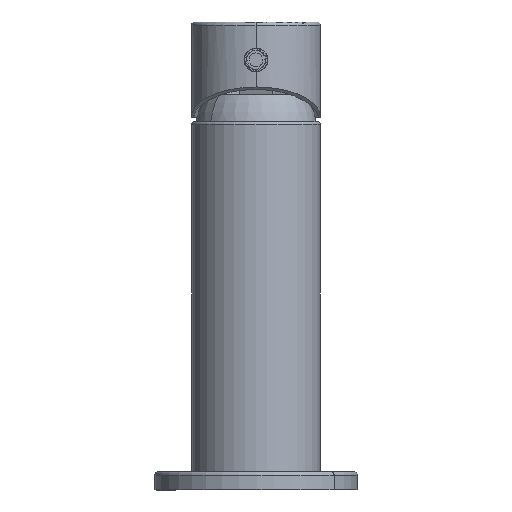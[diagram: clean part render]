
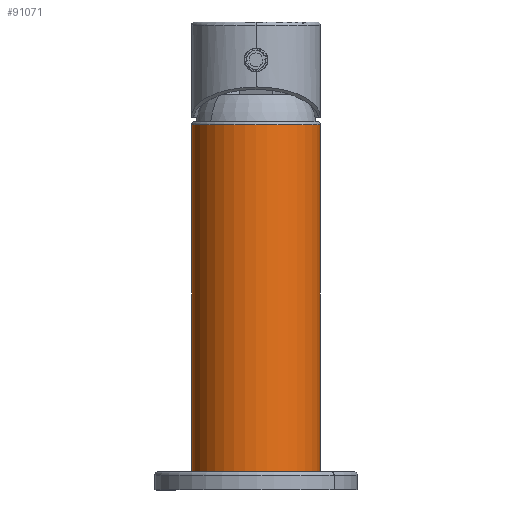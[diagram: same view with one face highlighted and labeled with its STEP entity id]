
A CAD part, left-side view. The second image highlights one B-rep face of the part: STEP entity #91071.
In plain terms, the highlighted cylindrical face has radius 17.5 mm (diameter 35 mm), a partial arc.
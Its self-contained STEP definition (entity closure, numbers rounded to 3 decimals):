
#1308 = LINE ( 'NONE', #87185, #107148 ) ;
#3329 = CARTESIAN_POINT ( 'NONE',  ( -17.5, 0., 114. ) ) ;
#3915 = VERTEX_POINT ( 'NONE', #20731 ) ;
#5699 = ORIENTED_EDGE ( 'NONE', *, *, #101669, .F. ) ;
#9214 = DIRECTION ( 'NONE',  ( 0., 0., -1. ) ) ;
#11037 = DIRECTION ( 'NONE',  ( 0., 0., -1. ) ) ;
#11075 = EDGE_CURVE ( 'NONE', #57371, #51277, #1308, .T. ) ;
#13503 = VERTEX_POINT ( 'NONE', #63009 ) ;
#14594 = ORIENTED_EDGE ( 'NONE', *, *, #80253, .T. ) ;
#15725 = DIRECTION ( 'NONE',  ( 0., 0., -1. ) ) ;
#15899 = AXIS2_PLACEMENT_3D ( 'NONE', #82147, #39203, #29622 ) ;
#16939 = EDGE_CURVE ( 'NONE', #47308, #3915, #30097, .T. ) ;
#18112 = EDGE_LOOP ( 'NONE', ( #5699, #49937, #100967, #103926, #109870, #44350, #46938, #14594 ) ) ;
#18632 = DIRECTION ( 'NONE',  ( 0., 0., -1. ) ) ;
#19739 = EDGE_CURVE ( 'NONE', #46131, #84262, #44283, .T. ) ;
#20444 = DIRECTION ( 'NONE',  ( 1., 0., 0. ) ) ;
#20731 = CARTESIAN_POINT ( 'NONE',  ( -17.5, 0., 113.2 ) ) ;
#26408 = CYLINDRICAL_SURFACE ( 'NONE', #43173, 17.5 ) ;
#27079 = CARTESIAN_POINT ( 'NONE',  ( -17.5, 0., 19. ) ) ;
#28987 = DIRECTION ( 'NONE',  ( 0., 0., -1. ) ) ;
#29622 = DIRECTION ( 'NONE',  ( -1., 0., 0. ) ) ;
#30097 = CIRCLE ( 'NONE', #62600, 17.5 ) ;
#30739 = VECTOR ( 'NONE', #28987, 1000. ) ;
#33785 = FACE_OUTER_BOUND ( 'NONE', #18112, .T. ) ;
#39203 = DIRECTION ( 'NONE',  ( 0., 0., -1. ) ) ;
#41730 = CARTESIAN_POINT ( 'NONE',  ( 17.5, 0., 113. ) ) ;
#42561 = CARTESIAN_POINT ( 'NONE',  ( 0., 0., 113.2 ) ) ;
#43173 = AXIS2_PLACEMENT_3D ( 'NONE', #60870, #15725, #51276 ) ;
#43750 = CARTESIAN_POINT ( 'NONE',  ( -17.5, 0., 92. ) ) ;
#44283 = LINE ( 'NONE', #78751, #30739 ) ;
#44350 = ORIENTED_EDGE ( 'NONE', *, *, #54583, .F. ) ;
#46068 = LINE ( 'NONE', #88983, #50813 ) ;
#46131 = VERTEX_POINT ( 'NONE', #77411 ) ;
#46938 = ORIENTED_EDGE ( 'NONE', *, *, #19739, .F. ) ;
#47308 = VERTEX_POINT ( 'NONE', #86714 ) ;
#48391 = CIRCLE ( 'NONE', #15899, 17.5 ) ;
#48811 = B_SPLINE_CURVE_WITH_KNOTS ( 'NONE', 3,
 ( #64488, #89341, #98965, #41730 ),
 .UNSPECIFIED., .F., .F.,
 ( 4, 4 ),
 ( 0., 1. ),
 .UNSPECIFIED. ) ;
#48910 = CARTESIAN_POINT ( 'NONE',  ( 17.5, 0., 19. ) ) ;
#49937 = ORIENTED_EDGE ( 'NONE', *, *, #16939, .T. ) ;
#50813 = VECTOR ( 'NONE', #11037, 1000. ) ;
#51276 = DIRECTION ( 'NONE',  ( -1., 0., 0. ) ) ;
#51277 = VERTEX_POINT ( 'NONE', #27079 ) ;
#54583 = EDGE_CURVE ( 'NONE', #84262, #51277, #48391, .T. ) ;
#57371 = VERTEX_POINT ( 'NONE', #43750 ) ;
#59271 = CARTESIAN_POINT ( 'NONE',  ( -17.5, 0., 113. ) ) ;
#59452 = DIRECTION ( 'NONE',  ( 0., 0., -1. ) ) ;
#60870 = CARTESIAN_POINT ( 'NONE',  ( 0., 0., 114. ) ) ;
#62600 = AXIS2_PLACEMENT_3D ( 'NONE', #42561, #63386, #20444 ) ;
#63009 = CARTESIAN_POINT ( 'NONE',  ( 17.5, 0., 113. ) ) ;
#63386 = DIRECTION ( 'NONE',  ( 0., 0., -1. ) ) ;
#64488 = CARTESIAN_POINT ( 'NONE',  ( 17.5, 0., 92. ) ) ;
#68475 = LINE ( 'NONE', #103484, #75427 ) ;
#74303 = EDGE_CURVE ( 'NONE', #3915, #78874, #97660, .T. ) ;
#75427 = VECTOR ( 'NONE', #59452, 1000. ) ;
#77411 = CARTESIAN_POINT ( 'NONE',  ( 17.5, 0., 92. ) ) ;
#78751 = CARTESIAN_POINT ( 'NONE',  ( 17.5, 0., 114. ) ) ;
#78874 = VERTEX_POINT ( 'NONE', #59271 ) ;
#80253 = EDGE_CURVE ( 'NONE', #46131, #13503, #48811, .T. ) ;
#82147 = CARTESIAN_POINT ( 'NONE',  ( 0., 0., 19. ) ) ;
#84262 = VERTEX_POINT ( 'NONE', #48910 ) ;
#86714 = CARTESIAN_POINT ( 'NONE',  ( 17.5, 0., 113.2 ) ) ;
#87185 = CARTESIAN_POINT ( 'NONE',  ( -17.5, 0., 114. ) ) ;
#88983 = CARTESIAN_POINT ( 'NONE',  ( 17.5, 0., 114. ) ) ;
#89029 = EDGE_CURVE ( 'NONE', #78874, #57371, #68475, .T. ) ;
#89341 = CARTESIAN_POINT ( 'NONE',  ( 17.5, 0., 99. ) ) ;
#91071 = ADVANCED_FACE ( 'NONE', ( #33785 ), #26408, .T. ) ;
#97660 = LINE ( 'NONE', #3329, #105344 ) ;
#98965 = CARTESIAN_POINT ( 'NONE',  ( 17.5, 0., 106. ) ) ;
#100967 = ORIENTED_EDGE ( 'NONE', *, *, #74303, .T. ) ;
#101669 = EDGE_CURVE ( 'NONE', #47308, #13503, #46068, .T. ) ;
#103484 = CARTESIAN_POINT ( 'NONE',  ( -17.5, 0., 114. ) ) ;
#103926 = ORIENTED_EDGE ( 'NONE', *, *, #89029, .T. ) ;
#105344 = VECTOR ( 'NONE', #18632, 1000. ) ;
#107148 = VECTOR ( 'NONE', #9214, 1000. ) ;
#109870 = ORIENTED_EDGE ( 'NONE', *, *, #11075, .T. ) ;
